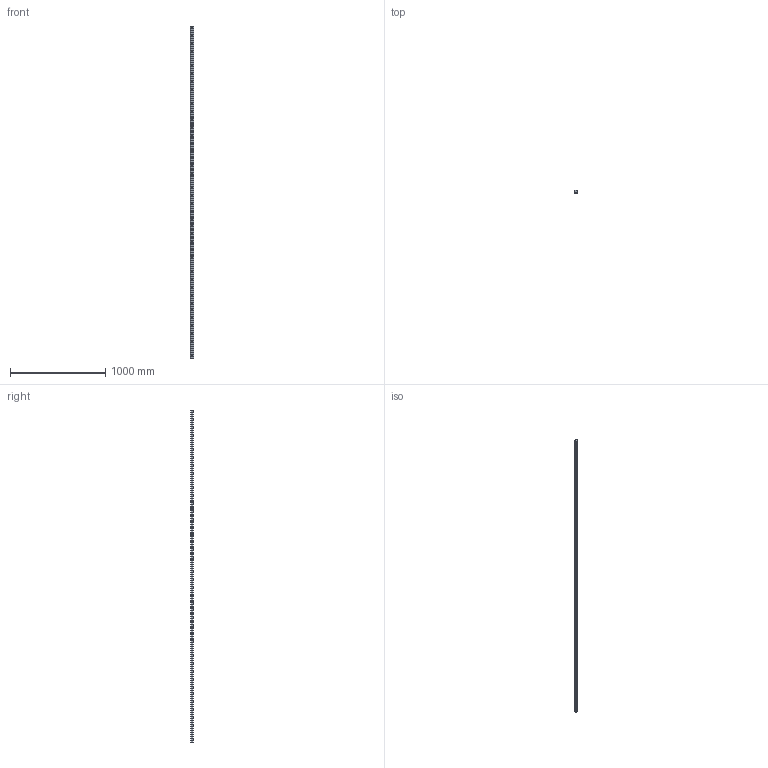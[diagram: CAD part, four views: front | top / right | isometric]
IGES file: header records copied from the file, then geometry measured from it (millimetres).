
Start section: SolidWorks IGES file using analytic representation for surfaces
Global section: file name: C:\Users\IanO\Desktop\Temp File\GENERAL\L1016_v2\L1016.RF35_v2\L1016.RF35_v2_20190612_IGES\L1016.RF35-3480.igs; native system: SolidWorks 2017; preprocessor: SolidWorks 2017; author: IanO; date: 190613.173346; units: millimetre
Bounding box: 34 x 26 x 3480 mm (x, y, z)
Surface area: 453023 mm2 (no closed solid volume)
Topology: 0 solids, 0 shells, 334 faces, 5448 edges, 5360 vertices
Faces by surface type: revolution 268, bspline 66
